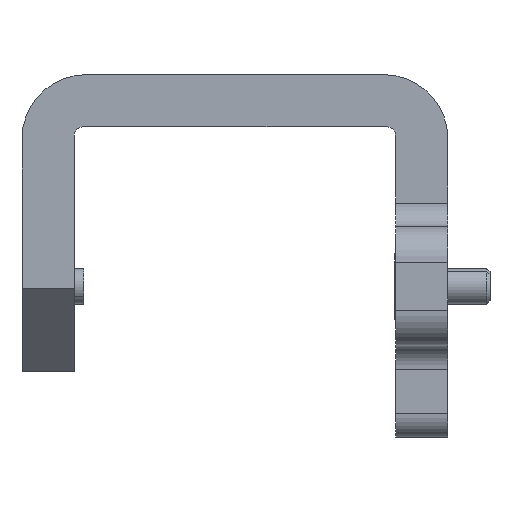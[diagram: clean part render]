
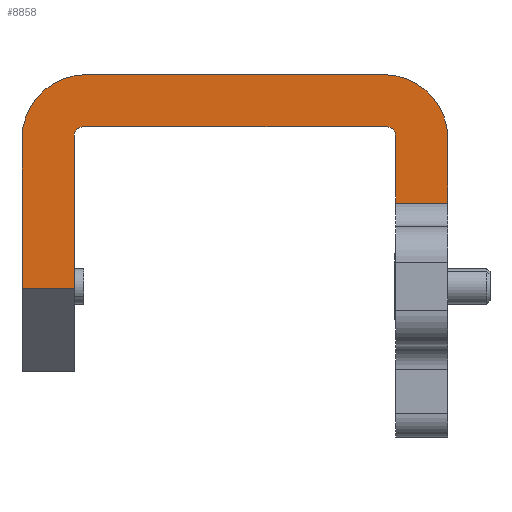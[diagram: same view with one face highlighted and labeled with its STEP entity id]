
A CAD part, left-side view. The second image highlights one B-rep face of the part: STEP entity #8858.
In plain terms, the highlighted planar face has unit normal (-1, 0, 0).
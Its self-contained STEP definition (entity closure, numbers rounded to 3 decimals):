
#87 = CARTESIAN_POINT ( 'NONE',  ( -12.7, 30.4, -5.4 ) ) ;
#144 = LINE ( 'NONE', #7146, #7697 ) ;
#281 = CARTESIAN_POINT ( 'NONE',  ( -12.7, 31.4, -18. ) ) ;
#339 = DIRECTION ( 'NONE',  ( 1., 0., 0. ) ) ;
#451 = VERTEX_POINT ( 'NONE', #5932 ) ;
#822 = DIRECTION ( 'NONE',  ( 0., 0., 1. ) ) ;
#1147 = CARTESIAN_POINT ( 'NONE',  ( -12.7, 30.7, -5.1 ) ) ;
#1157 = EDGE_CURVE ( 'NONE', #2724, #6521, #2144, .T. ) ;
#1258 = CARTESIAN_POINT ( 'NONE',  ( -12.7, 35.8, 0. ) ) ;
#1360 = ORIENTED_EDGE ( 'NONE', *, *, #1599, .T. ) ;
#1401 = ORIENTED_EDGE ( 'NONE', *, *, #9252, .T. ) ;
#1409 = PLANE ( 'NONE',  #6612 ) ;
#1517 = VECTOR ( 'NONE', #7878, 1000. ) ;
#1599 = EDGE_CURVE ( 'NONE', #1880, #9670, #1655, .T. ) ;
#1655 = LINE ( 'NONE', #9265, #1517 ) ;
#1667 = EDGE_CURVE ( 'NONE', #451, #4463, #7349, .T. ) ;
#1761 = AXIS2_PLACEMENT_3D ( 'NONE', #1147, #339, #2729 ) ;
#1880 = VERTEX_POINT ( 'NONE', #7524 ) ;
#1903 = EDGE_CURVE ( 'NONE', #9347, #451, #5300, .T. ) ;
#1946 = DIRECTION ( 'NONE',  ( 0., 0., -1. ) ) ;
#1971 = LINE ( 'NONE', #2022, #5365 ) ;
#2022 = CARTESIAN_POINT ( 'NONE',  ( -12.7, 0., -10.8 ) ) ;
#2046 = CARTESIAN_POINT ( 'NONE',  ( -12.7, 31.4, 0. ) ) ;
#2144 = CIRCLE ( 'NONE', #8469, 0.7 ) ;
#2344 = VECTOR ( 'NONE', #1946, 1000. ) ;
#2369 = EDGE_LOOP ( 'NONE', ( #7846, #6124, #9805, #5737, #6877, #1360, #7148, #2382, #6800, #4399, #9429, #1401 ) ) ;
#2382 = ORIENTED_EDGE ( 'NONE', *, *, #8716, .T. ) ;
#2724 = VERTEX_POINT ( 'NONE', #6590 ) ;
#2726 = LINE ( 'NONE', #1258, #9247 ) ;
#2729 = DIRECTION ( 'NONE',  ( 0., 0., 1. ) ) ;
#2795 = DIRECTION ( 'NONE',  ( 1., 0., 0. ) ) ;
#2825 = CARTESIAN_POINT ( 'NONE',  ( -12.7, 4.4, -5.1 ) ) ;
#2832 = EDGE_CURVE ( 'NONE', #8411, #6521, #6670, .T. ) ;
#3422 = EDGE_CURVE ( 'NONE', #4970, #9670, #5789, .T. ) ;
#3457 = AXIS2_PLACEMENT_3D ( 'NONE', #87, #4660, #4605 ) ;
#3494 = DIRECTION ( 'NONE',  ( 0., -1., 0. ) ) ;
#3580 = CARTESIAN_POINT ( 'NONE',  ( -12.7, 0., 0. ) ) ;
#3698 = CARTESIAN_POINT ( 'NONE',  ( -12.7, 35.8, -5.4 ) ) ;
#3768 = CARTESIAN_POINT ( 'NONE',  ( -12.7, 0., 0. ) ) ;
#3998 = EDGE_CURVE ( 'NONE', #6940, #9347, #6899, .T. ) ;
#4339 = CARTESIAN_POINT ( 'NONE',  ( -12.7, 31.4, -5.1 ) ) ;
#4399 = ORIENTED_EDGE ( 'NONE', *, *, #1157, .T. ) ;
#4403 = DIRECTION ( 'NONE',  ( -1., 0., 0. ) ) ;
#4463 = VERTEX_POINT ( 'NONE', #3698 ) ;
#4542 = DIRECTION ( 'NONE',  ( 0., 1., 0. ) ) ;
#4605 = DIRECTION ( 'NONE',  ( 0., 0., 1. ) ) ;
#4660 = DIRECTION ( 'NONE',  ( -1., 0., 0. ) ) ;
#4675 = DIRECTION ( 'NONE',  ( -1., 0., 0. ) ) ;
#4837 = VERTEX_POINT ( 'NONE', #9806 ) ;
#4970 = VERTEX_POINT ( 'NONE', #4339 ) ;
#5292 = CARTESIAN_POINT ( 'NONE',  ( -12.7, 0., -5.4 ) ) ;
#5300 = LINE ( 'NONE', #3768, #7503 ) ;
#5330 = VECTOR ( 'NONE', #9927, 1000. ) ;
#5365 = VECTOR ( 'NONE', #3494, 1000. ) ;
#5379 = CARTESIAN_POINT ( 'NONE',  ( -12.7, 5.4, -5.4 ) ) ;
#5447 = CARTESIAN_POINT ( 'NONE',  ( -12.7, 4.4, -30.5 ) ) ;
#5737 = ORIENTED_EDGE ( 'NONE', *, *, #1667, .T. ) ;
#5789 = LINE ( 'NONE', #2046, #2344 ) ;
#5932 = CARTESIAN_POINT ( 'NONE',  ( -12.7, 30.4, 0. ) ) ;
#5979 = DIRECTION ( 'NONE',  ( 0., 0., 1. ) ) ;
#6013 = LINE ( 'NONE', #9767, #5330 ) ;
#6124 = ORIENTED_EDGE ( 'NONE', *, *, #3998, .T. ) ;
#6315 = EDGE_CURVE ( 'NONE', #2724, #8005, #144, .T. ) ;
#6521 = VERTEX_POINT ( 'NONE', #2825 ) ;
#6590 = CARTESIAN_POINT ( 'NONE',  ( -12.7, 5.1, -4.4 ) ) ;
#6612 = AXIS2_PLACEMENT_3D ( 'NONE', #3580, #4403, #7589 ) ;
#6670 = LINE ( 'NONE', #5447, #9311 ) ;
#6727 = DIRECTION ( 'NONE',  ( 0., 0., -1. ) ) ;
#6800 = ORIENTED_EDGE ( 'NONE', *, *, #6315, .F. ) ;
#6877 = ORIENTED_EDGE ( 'NONE', *, *, #9504, .T. ) ;
#6899 = CIRCLE ( 'NONE', #9792, 5.4 ) ;
#6940 = VERTEX_POINT ( 'NONE', #5292 ) ;
#7146 = CARTESIAN_POINT ( 'NONE',  ( -12.7, 0., -4.4 ) ) ;
#7148 = ORIENTED_EDGE ( 'NONE', *, *, #3422, .F. ) ;
#7247 = DIRECTION ( 'NONE',  ( 0., 1., 0. ) ) ;
#7349 = CIRCLE ( 'NONE', #3457, 5.4 ) ;
#7503 = VECTOR ( 'NONE', #4542, 1000. ) ;
#7524 = CARTESIAN_POINT ( 'NONE',  ( -12.7, 35.8, -18. ) ) ;
#7589 = DIRECTION ( 'NONE',  ( 0., 0., 1. ) ) ;
#7697 = VECTOR ( 'NONE', #7247, 1000. ) ;
#7846 = ORIENTED_EDGE ( 'NONE', *, *, #8640, .T. ) ;
#7854 = CARTESIAN_POINT ( 'NONE',  ( -12.7, 30.7, -4.4 ) ) ;
#7878 = DIRECTION ( 'NONE',  ( 0., -1., 0. ) ) ;
#8005 = VERTEX_POINT ( 'NONE', #7854 ) ;
#8204 = FACE_OUTER_BOUND ( 'NONE', #2369, .T. ) ;
#8364 = CARTESIAN_POINT ( 'NONE',  ( -12.7, 5.4, 0. ) ) ;
#8411 = VERTEX_POINT ( 'NONE', #9126 ) ;
#8469 = AXIS2_PLACEMENT_3D ( 'NONE', #9732, #2795, #5979 ) ;
#8545 = DIRECTION ( 'NONE',  ( 0., 0., 1. ) ) ;
#8564 = CIRCLE ( 'NONE', #1761, 0.7 ) ;
#8640 = EDGE_CURVE ( 'NONE', #4837, #6940, #6013, .T. ) ;
#8716 = EDGE_CURVE ( 'NONE', #4970, #8005, #8564, .T. ) ;
#8858 = ADVANCED_FACE ( 'NONE', ( #8204 ), #1409, .T. ) ;
#9126 = CARTESIAN_POINT ( 'NONE',  ( -12.7, 4.4, -10.8 ) ) ;
#9247 = VECTOR ( 'NONE', #6727, 1000. ) ;
#9252 = EDGE_CURVE ( 'NONE', #8411, #4837, #1971, .T. ) ;
#9265 = CARTESIAN_POINT ( 'NONE',  ( -12.7, 0., -18. ) ) ;
#9311 = VECTOR ( 'NONE', #8545, 1000. ) ;
#9347 = VERTEX_POINT ( 'NONE', #8364 ) ;
#9429 = ORIENTED_EDGE ( 'NONE', *, *, #2832, .F. ) ;
#9504 = EDGE_CURVE ( 'NONE', #4463, #1880, #2726, .T. ) ;
#9670 = VERTEX_POINT ( 'NONE', #281 ) ;
#9732 = CARTESIAN_POINT ( 'NONE',  ( -12.7, 5.1, -5.1 ) ) ;
#9767 = CARTESIAN_POINT ( 'NONE',  ( -12.7, 0., -30.5 ) ) ;
#9792 = AXIS2_PLACEMENT_3D ( 'NONE', #5379, #4675, #822 ) ;
#9805 = ORIENTED_EDGE ( 'NONE', *, *, #1903, .T. ) ;
#9806 = CARTESIAN_POINT ( 'NONE',  ( -12.7, 0., -10.8 ) ) ;
#9927 = DIRECTION ( 'NONE',  ( 0., 0., 1. ) ) ;
